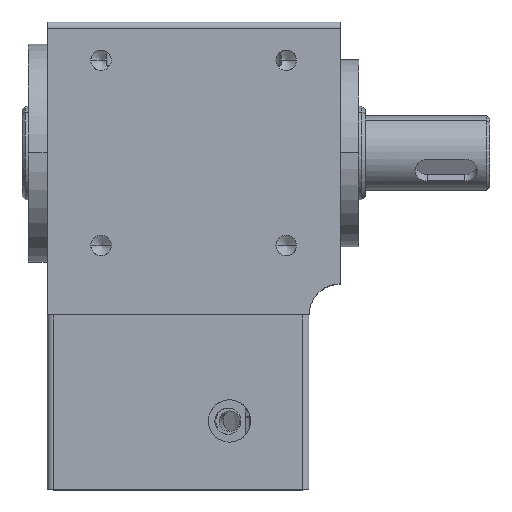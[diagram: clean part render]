
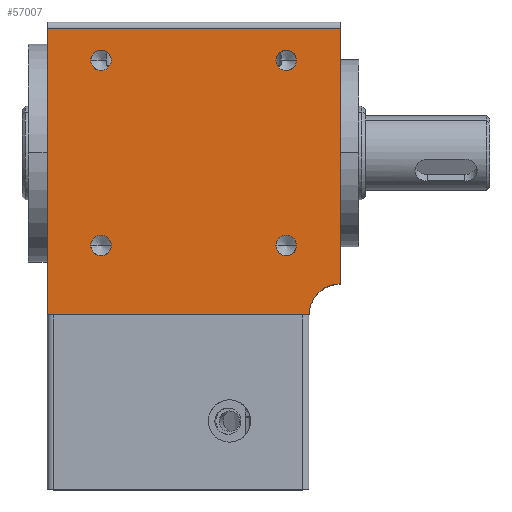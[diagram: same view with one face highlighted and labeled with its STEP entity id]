
A CAD part, top view. The second image highlights one B-rep face of the part: STEP entity #57007.
In plain terms, the highlighted planar face has unit normal (0, 0, 1).
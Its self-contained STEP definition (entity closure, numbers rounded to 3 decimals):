
#773 = VECTOR ( 'NONE', #49847, 1000. ) ;
#780 = VECTOR ( 'NONE', #22739, 1000. ) ;
#1751 = CARTESIAN_POINT ( 'NONE',  ( 53., 22.5, 21. ) ) ;
#2244 = DIRECTION ( 'NONE',  ( 1., 0., 0. ) ) ;
#2745 = DIRECTION ( 'NONE',  ( 0., 0., 1. ) ) ;
#2873 = PLANE ( 'NONE',  #8521 ) ;
#3504 = DIRECTION ( 'NONE',  ( 1., 0., 0. ) ) ;
#3636 = VERTEX_POINT ( 'NONE', #8416 ) ;
#3757 = EDGE_LOOP ( 'NONE', ( #29424, #14627 ) ) ;
#4320 = EDGE_LOOP ( 'NONE', ( #51939, #35039 ) ) ;
#4436 = CARTESIAN_POINT ( 'NONE',  ( 10.001, 17.349, 21. ) ) ;
#5393 = VERTEX_POINT ( 'NONE', #50942 ) ;
#5456 = ORIENTED_EDGE ( 'NONE', *, *, #37003, .F. ) ;
#6108 = CARTESIAN_POINT ( 'NONE',  ( 50., 22.5, 21. ) ) ;
#6180 = CIRCLE ( 'NONE', #33556, 1.65 ) ;
#8002 = DIRECTION ( 'NONE',  ( 0., 0., 1. ) ) ;
#8107 = ORIENTED_EDGE ( 'NONE', *, *, #17700, .F. ) ;
#8416 = CARTESIAN_POINT ( 'NONE',  ( 10.001, -12.349, 21. ) ) ;
#8440 = AXIS2_PLACEMENT_3D ( 'NONE', #13776, #44831, #18307 ) ;
#8521 = AXIS2_PLACEMENT_3D ( 'NONE', #34095, #38144, #11918 ) ;
#8771 = AXIS2_PLACEMENT_3D ( 'NONE', #45910, #19398, #50380 ) ;
#9956 = EDGE_CURVE ( 'NONE', #42834, #28533, #46792, .T. ) ;
#10124 = CARTESIAN_POINT ( 'NONE',  ( 39.699, 17.349, 21. ) ) ;
#10802 = CIRCLE ( 'NONE', #8440, 5. ) ;
#11918 = DIRECTION ( 'NONE',  ( -1., 0., 0. ) ) ;
#12735 = LINE ( 'NONE', #40739, #773 ) ;
#12747 = CARTESIAN_POINT ( 'NONE',  ( 11.651, 17.349, 21. ) ) ;
#13046 = LINE ( 'NONE', #1751, #36702 ) ;
#13104 = CIRCLE ( 'NONE', #33986, 1.65 ) ;
#13753 = ORIENTED_EDGE ( 'NONE', *, *, #33081, .F. ) ;
#13776 = CARTESIAN_POINT ( 'NONE',  ( 50., -23.5, 21. ) ) ;
#13933 = DIRECTION ( 'NONE',  ( 0., 0., 1. ) ) ;
#14627 = ORIENTED_EDGE ( 'NONE', *, *, #24233, .F. ) ;
#14670 = DIRECTION ( 'NONE',  ( 0., -1., 0. ) ) ;
#14778 = VECTOR ( 'NONE', #14670, 1000. ) ;
#15987 = VERTEX_POINT ( 'NONE', #17317 ) ;
#16077 = AXIS2_PLACEMENT_3D ( 'NONE', #12747, #43817, #17270 ) ;
#16709 = ORIENTED_EDGE ( 'NONE', *, *, #44680, .F. ) ;
#17270 = DIRECTION ( 'NONE',  ( 1., 0., 0. ) ) ;
#17317 = CARTESIAN_POINT ( 'NONE',  ( 13.301, 17.349, 21. ) ) ;
#17700 = EDGE_CURVE ( 'NONE', #44432, #3636, #45517, .T. ) ;
#17893 = VERTEX_POINT ( 'NONE', #34073 ) ;
#18218 = ORIENTED_EDGE ( 'NONE', *, *, #52467, .T. ) ;
#18307 = DIRECTION ( 'NONE',  ( 1., 0., 0. ) ) ;
#18645 = ORIENTED_EDGE ( 'NONE', *, *, #38043, .F. ) ;
#19398 = DIRECTION ( 'NONE',  ( 0., 0., 1. ) ) ;
#20350 = AXIS2_PLACEMENT_3D ( 'NONE', #49574, #22987, #54026 ) ;
#21001 = FACE_BOUND ( 'NONE', #47490, .T. ) ;
#21834 = CARTESIAN_POINT ( 'NONE',  ( 50., -18.5, 21. ) ) ;
#22369 = FACE_BOUND ( 'NONE', #39308, .T. ) ;
#22739 = DIRECTION ( 'NONE',  ( 1., 0., 0. ) ) ;
#22987 = DIRECTION ( 'NONE',  ( 0., 0., 1. ) ) ;
#23506 = AXIS2_PLACEMENT_3D ( 'NONE', #56792, #30254, #3504 ) ;
#23899 = EDGE_CURVE ( 'NONE', #54276, #5393, #24296, .T. ) ;
#23908 = CARTESIAN_POINT ( 'NONE',  ( 53., -23.5, 21. ) ) ;
#24233 = EDGE_CURVE ( 'NONE', #53662, #15987, #13104, .T. ) ;
#24296 = CIRCLE ( 'NONE', #25371, 1.65 ) ;
#25371 = AXIS2_PLACEMENT_3D ( 'NONE', #34688, #8002, #39114 ) ;
#27061 = ORIENTED_EDGE ( 'NONE', *, *, #9956, .T. ) ;
#27159 = AXIS2_PLACEMENT_3D ( 'NONE', #40549, #13933, #44995 ) ;
#28533 = VERTEX_POINT ( 'NONE', #39533 ) ;
#28554 = DIRECTION ( 'NONE',  ( 1., 0., 0. ) ) ;
#29027 = DIRECTION ( 'NONE',  ( 0., 0., 1. ) ) ;
#29424 = ORIENTED_EDGE ( 'NONE', *, *, #46070, .F. ) ;
#29502 = CARTESIAN_POINT ( 'NONE',  ( 41.349, -12.349, 21. ) ) ;
#30254 = DIRECTION ( 'NONE',  ( 0., 0., 1. ) ) ;
#30902 = CARTESIAN_POINT ( 'NONE',  ( 42.999, -12.349, 21. ) ) ;
#31346 = CIRCLE ( 'NONE', #16077, 1.65 ) ;
#32847 = FACE_BOUND ( 'NONE', #4320, .T. ) ;
#33081 = EDGE_CURVE ( 'NONE', #52932, #56044, #6180, .T. ) ;
#33556 = AXIS2_PLACEMENT_3D ( 'NONE', #29502, #2745, #33977 ) ;
#33977 = DIRECTION ( 'NONE',  ( 1., 0., 0. ) ) ;
#33986 = AXIS2_PLACEMENT_3D ( 'NONE', #55554, #29027, #2244 ) ;
#34073 = CARTESIAN_POINT ( 'NONE',  ( 3., 22.5, 21. ) ) ;
#34095 = CARTESIAN_POINT ( 'NONE',  ( 53., -23.5, 21. ) ) ;
#34688 = CARTESIAN_POINT ( 'NONE',  ( 41.349, 17.349, 21. ) ) ;
#35039 = ORIENTED_EDGE ( 'NONE', *, *, #23899, .F. ) ;
#36702 = VECTOR ( 'NONE', #28554, 1000. ) ;
#37003 = EDGE_CURVE ( 'NONE', #42834, #17893, #12735, .T. ) ;
#38043 = EDGE_CURVE ( 'NONE', #51378, #57118, #38370, .T. ) ;
#38144 = DIRECTION ( 'NONE',  ( 0., 0., -1. ) ) ;
#38370 = LINE ( 'NONE', #45723, #14778 ) ;
#38610 = CARTESIAN_POINT ( 'NONE',  ( 39.699, -12.349, 21. ) ) ;
#38877 = CIRCLE ( 'NONE', #20350, 1.65 ) ;
#39114 = DIRECTION ( 'NONE',  ( 1., 0., 0. ) ) ;
#39308 = EDGE_LOOP ( 'NONE', ( #8107, #42024 ) ) ;
#39533 = CARTESIAN_POINT ( 'NONE',  ( 45., -23.5, 21. ) ) ;
#40309 = EDGE_CURVE ( 'NONE', #3636, #44432, #38877, .T. ) ;
#40549 = CARTESIAN_POINT ( 'NONE',  ( 41.349, 17.349, 21. ) ) ;
#40739 = CARTESIAN_POINT ( 'NONE',  ( 3., 0., 21. ) ) ;
#42024 = ORIENTED_EDGE ( 'NONE', *, *, #40309, .F. ) ;
#42834 = VERTEX_POINT ( 'NONE', #56452 ) ;
#43343 = CIRCLE ( 'NONE', #27159, 1.65 ) ;
#43817 = DIRECTION ( 'NONE',  ( 0., 0., 1. ) ) ;
#44432 = VERTEX_POINT ( 'NONE', #54535 ) ;
#44680 = EDGE_CURVE ( 'NONE', #56044, #52932, #53639, .T. ) ;
#44831 = DIRECTION ( 'NONE',  ( 0., 0., -1. ) ) ;
#44995 = DIRECTION ( 'NONE',  ( 1., 0., 0. ) ) ;
#45517 = CIRCLE ( 'NONE', #8771, 1.65 ) ;
#45605 = ORIENTED_EDGE ( 'NONE', *, *, #48768, .F. ) ;
#45723 = CARTESIAN_POINT ( 'NONE',  ( 50., 0., 21. ) ) ;
#45910 = CARTESIAN_POINT ( 'NONE',  ( 11.651, -12.349, 21. ) ) ;
#45985 = FACE_OUTER_BOUND ( 'NONE', #52468, .T. ) ;
#46070 = EDGE_CURVE ( 'NONE', #15987, #53662, #31346, .T. ) ;
#46792 = LINE ( 'NONE', #23908, #780 ) ;
#47490 = EDGE_LOOP ( 'NONE', ( #16709, #13753 ) ) ;
#48768 = EDGE_CURVE ( 'NONE', #17893, #51378, #13046, .T. ) ;
#49574 = CARTESIAN_POINT ( 'NONE',  ( 11.651, -12.349, 21. ) ) ;
#49847 = DIRECTION ( 'NONE',  ( 0., 1., 0. ) ) ;
#50380 = DIRECTION ( 'NONE',  ( 1., 0., 0. ) ) ;
#50942 = CARTESIAN_POINT ( 'NONE',  ( 42.999, 17.349, 21. ) ) ;
#51378 = VERTEX_POINT ( 'NONE', #6108 ) ;
#51939 = ORIENTED_EDGE ( 'NONE', *, *, #53170, .F. ) ;
#52467 = EDGE_CURVE ( 'NONE', #28533, #57118, #10802, .T. ) ;
#52468 = EDGE_LOOP ( 'NONE', ( #45605, #5456, #27061, #18218, #18645 ) ) ;
#52932 = VERTEX_POINT ( 'NONE', #38610 ) ;
#53170 = EDGE_CURVE ( 'NONE', #5393, #54276, #43343, .T. ) ;
#53639 = CIRCLE ( 'NONE', #23506, 1.65 ) ;
#53662 = VERTEX_POINT ( 'NONE', #4436 ) ;
#54026 = DIRECTION ( 'NONE',  ( 1., 0., 0. ) ) ;
#54276 = VERTEX_POINT ( 'NONE', #10124 ) ;
#54535 = CARTESIAN_POINT ( 'NONE',  ( 13.301, -12.349, 21. ) ) ;
#55554 = CARTESIAN_POINT ( 'NONE',  ( 11.651, 17.349, 21. ) ) ;
#56044 = VERTEX_POINT ( 'NONE', #30902 ) ;
#56362 = FACE_BOUND ( 'NONE', #3757, .T. ) ;
#56452 = CARTESIAN_POINT ( 'NONE',  ( 3., -23.5, 21. ) ) ;
#56792 = CARTESIAN_POINT ( 'NONE',  ( 41.349, -12.349, 21. ) ) ;
#57007 = ADVANCED_FACE ( 'NONE', ( #45985, #56362, #22369, #21001, #32847 ), #2873, .F. ) ;
#57118 = VERTEX_POINT ( 'NONE', #21834 ) ;
